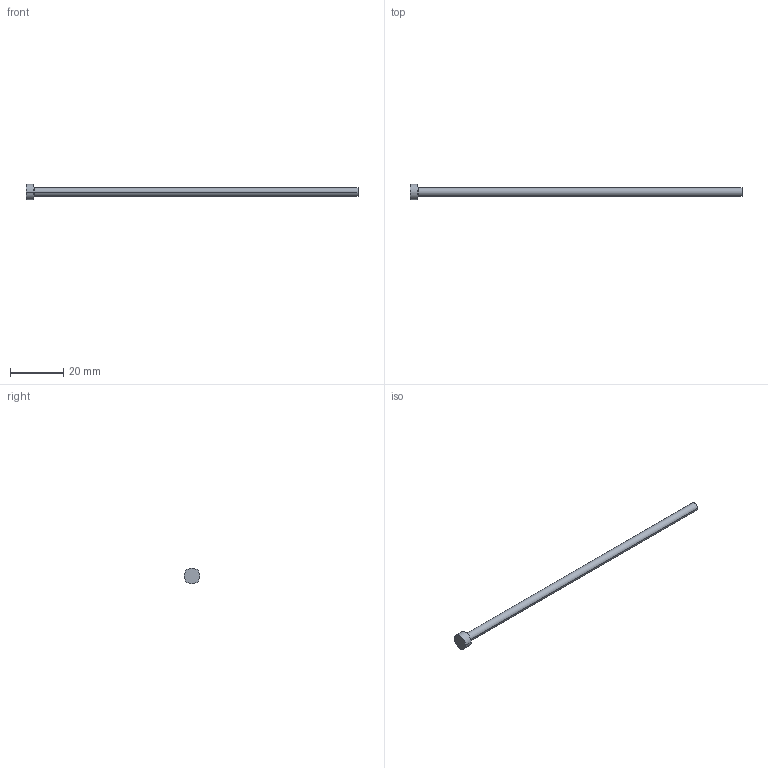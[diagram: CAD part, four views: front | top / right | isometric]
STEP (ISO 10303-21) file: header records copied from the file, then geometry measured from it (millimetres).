
FILE_DESCRIPTION (( 'STEP AP214' ), '1' );
FILE_NAME ('A-3,2x125.STEP', '2020-05-28T17:25:33', ( 'August' ), ( '' ), 'SwSTEP 2.0', 'SolidWorks 2018', '' );
FILE_SCHEMA (( 'AUTOMOTIVE_DESIGN' ));
Length unit declared in the file: millimetre
Products named in the file (1): A-3,2x125
Bounding box: 125 x 6 x 6 mm (x, y, z)
Volume: 1066.2 mm3; surface area: 1338.3 mm2
Topology: 1 solids, 1 shells, 9 faces, 16 edges, 10 vertices
Faces by surface type: cylinder 4, plane 3, torus 2
Entity records: 260 total; most frequent: DIRECTION 48, CARTESIAN_POINT 36, ORIENTED_EDGE 32, AXIS2_PLACEMENT_3D 22, EDGE_CURVE 16, CIRCLE 12, EDGE_LOOP 10, VERTEX_POINT 10
